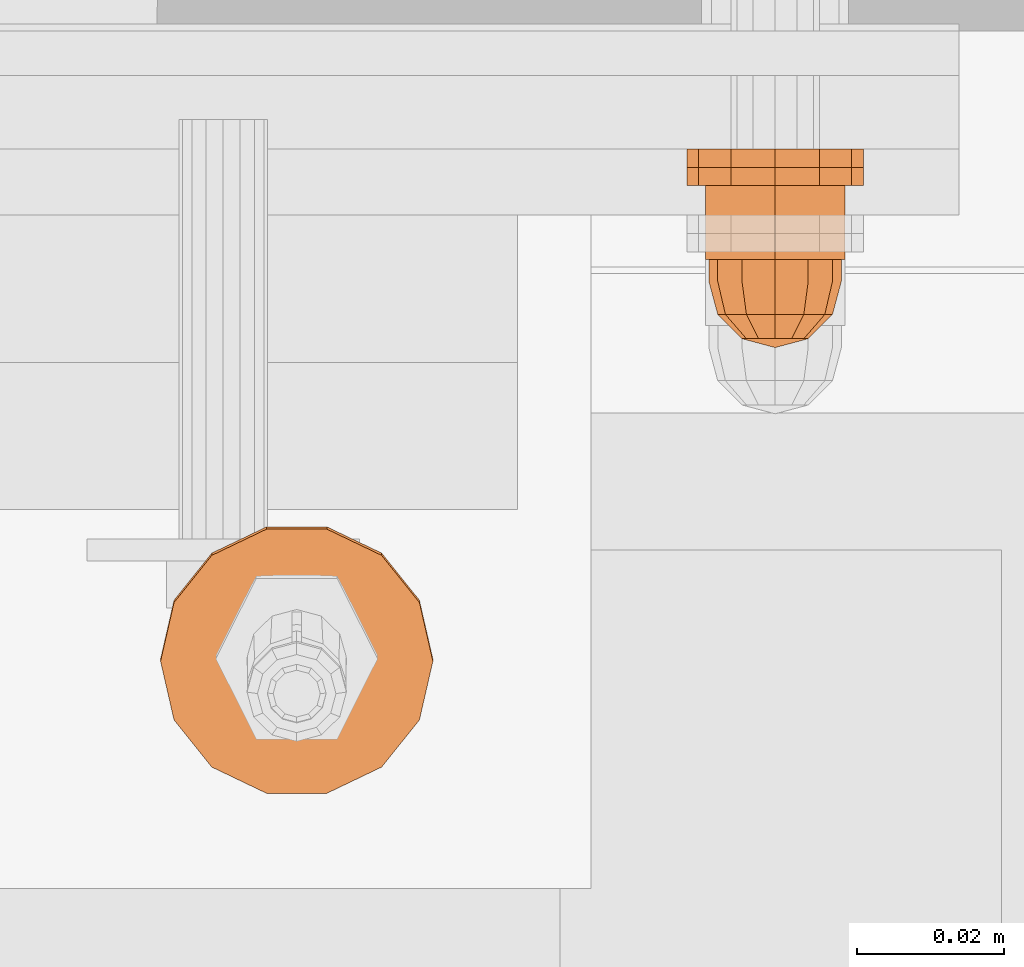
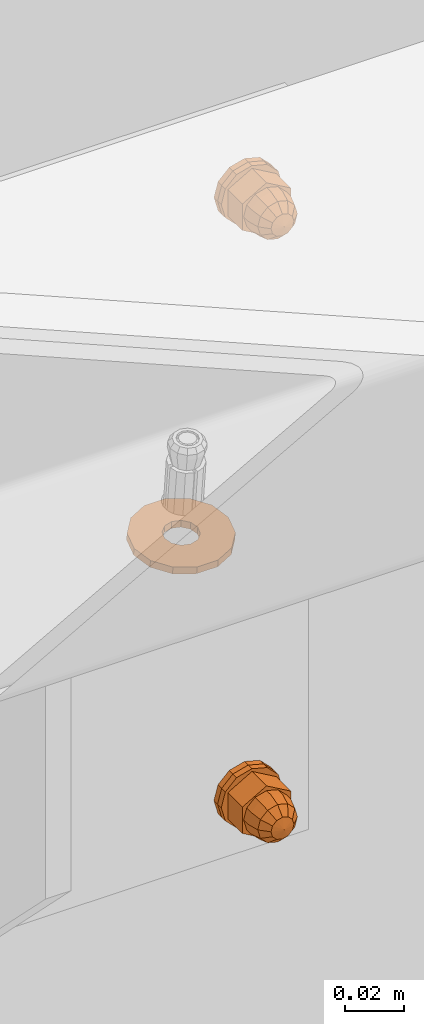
# One storey, part 139 of 162: 7 proxies.
"""IFC2X3 building model written with IfcOpenShell, lengths in millimetres."""

from ifc_helpers import new_model, entity, si_unit, converted_unit, origin_with_axes, place, context, project, spatial, faceted_brep, material, element, save


model = new_model("IFC2X3")

# Units and contexts
model_context = context("Model", 3, precision=1e-09, world=origin_with_axes())
ifc_project = project(units=[si_unit("LENGTHUNIT", "METRE", prefix="MILLI"), si_unit("AREAUNIT", "SQUARE_METRE"), si_unit("VOLUMEUNIT", "CUBIC_METRE"), converted_unit("PLANEANGLEUNIT", "DEGREE", entity("IfcPlaneAngleMeasure", 0.01745329), si_unit("PLANEANGLEUNIT", "RADIAN"), dimensions=[0, 0, 0, 0, 0, 0, 0])], contexts=[model_context])

# Site, building, storey
site_placement = place(None, origin_with_axes())
site = spatial("IfcSite", under=ifc_project, at=site_placement, Name="Hermannstra?e 1a, 60318 Frankfurt", CompositionType="ELEMENT")
building_placement = place(site_placement, origin_with_axes())
building = spatial("IfcBuilding", under=site, at=building_placement, Name="Struktur 1", CompositionType="ELEMENT")
storey_placement = place(building_placement, origin_with_axes())
storey = spatial("IfcBuildingStorey", under=building, at=storey_placement, Name="Default Storey", CompositionType="ELEMENT", Elevation=0.0)

# Proxies
ifc_material_1 = material(Name="A4")
proxy_1_placement = place(None, origin_with_axes())
element("IfcBuildingElementProxy", 1, at=proxy_1_placement, inside=storey, material=ifc_material_1, ObjectType="-", context=model_context, shape_type="Brep", body=[
    faceted_brep([(2934.309364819, 2714.609373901, 17466.999), (2934.309364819, 2704.609373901, 17466.999), (2933.505517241, 2704.609373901, 17469.999), (2933.505517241, 2714.609373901, 17469.999), (2931.309364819, 2704.609373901, 17472.195152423), (2931.309364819, 2714.609373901, 17472.195152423), (2933.505517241, 2714.609373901, 17463.999), (2933.505517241, 2704.609373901, 17463.999), (2937.789234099, 2714.609373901, 17461.525794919), (2928.309364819, 2714.609373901, 17456.052589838), (2918.829495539, 2714.609373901, 17461.525794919), (2918.829495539, 2714.609373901, 17472.472205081), (2928.309364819, 2714.609373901, 17477.945410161), (2937.789234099, 2714.609373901, 17472.472205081), (2931.309364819, 2714.609373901, 17461.802847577), (2928.309364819, 2714.609373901, 17472.999), (2925.309364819, 2714.609373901, 17472.195152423), (2923.113212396, 2714.609373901, 17469.999), (2922.309364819, 2714.609373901, 17466.999), (2923.113212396, 2714.609373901, 17463.999), (2925.309364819, 2714.609373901, 17461.802847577), (2928.309364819, 2714.609373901, 17460.999), (2928.309364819, 2704.609373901, 17456.052589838), (2937.789234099, 2704.609373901, 17461.525794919), (2937.789234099, 2704.609373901, 17472.472205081), (2928.309364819, 2704.609373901, 17477.945410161), (2918.829495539, 2704.609373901, 17472.472205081), (2918.829495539, 2704.609373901, 17461.525794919), (2931.309364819, 2704.609373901, 17461.802847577), (2928.309364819, 2704.609373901, 17460.999), (2925.309364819, 2704.609373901, 17461.802847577), (2923.113212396, 2704.609373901, 17463.999), (2922.309364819, 2704.609373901, 17466.999), (2923.113212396, 2704.609373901, 17469.999), (2925.309364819, 2704.609373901, 17472.195152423), (2928.309364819, 2704.609373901, 17472.999)], [[[0, 1, 2, 3]], [[3, 2, 4, 5]], [[1, 0, 6, 7]], [[8, 9, 10, 11, 12, 13], [14, 6, 0, 3, 5, 15, 16, 17, 18, 19, 20, 21]], [[22, 23, 24, 25, 26, 27], [1, 7, 28, 29, 30, 31, 32, 33, 34, 35, 4, 2]], [[7, 6, 14, 28]], [[24, 23, 8, 13]], [[5, 4, 35, 15]], [[13, 12, 25, 24]], [[28, 14, 21, 29]], [[23, 22, 9, 8]], [[15, 35, 34, 16]], [[12, 11, 26, 25]], [[29, 21, 20, 30]], [[22, 27, 10, 9]], [[16, 34, 33, 17]], [[27, 26, 11, 10]], [[30, 20, 19, 31]], [[17, 33, 32, 18]], [[31, 19, 18, 32]]]),
    faceted_brep([(2928.309364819, 2704.609373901, 17457.999), (2928.309364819, 2701.609373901, 17457.999), (2923.809364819, 2701.609373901, 17459.204771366), (2923.809364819, 2704.609373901, 17459.204771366), (2932.809364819, 2704.609373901, 17459.204771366), (2932.809364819, 2701.609373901, 17459.204771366), (2936.103593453, 2701.609373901, 17471.499), (2932.809364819, 2701.609373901, 17474.793228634), (2928.309364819, 2701.609373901, 17475.999), (2923.809364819, 2701.609373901, 17474.793228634), (2920.515136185, 2701.609373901, 17471.499), (2919.309364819, 2701.609373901, 17466.999), (2920.515136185, 2701.609373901, 17462.499), (2936.103593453, 2701.609373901, 17462.499), (2937.309364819, 2701.609373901, 17466.999), (2920.515136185, 2704.609373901, 17471.499), (2923.809364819, 2704.609373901, 17474.793228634), (2928.309364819, 2704.609373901, 17475.999), (2932.809364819, 2704.609373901, 17474.793228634), (2936.103593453, 2704.609373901, 17471.499), (2937.309364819, 2704.609373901, 17466.999), (2936.103593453, 2704.609373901, 17462.499), (2920.515136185, 2704.609373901, 17462.499), (2919.309364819, 2704.609373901, 17466.999)], [[[0, 1, 2, 3]], [[1, 0, 4, 5]], [[6, 7, 8, 9, 10, 11, 12, 2, 1, 5, 13, 14]], [[15, 16, 17, 18, 19, 20, 21, 4, 0, 3, 22, 23]], [[3, 2, 12, 22]], [[5, 4, 21, 13]], [[22, 12, 11, 23]], [[13, 21, 20, 14]], [[7, 18, 17, 8]], [[19, 6, 14, 20]], [[18, 7, 6, 19]], [[23, 11, 10, 15]], [[8, 17, 16, 9]], [[15, 10, 9, 16]]]),
    faceted_brep([(2936.103593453, 2701.609373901, 17462.499), (2935.059364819, 2697.109373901, 17463.101885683), (2932.206479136, 2697.109373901, 17460.249), (2932.809364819, 2701.609373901, 17459.204771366), (2920.515136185, 2701.609373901, 17471.499), (2923.809364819, 2701.609373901, 17474.793228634), (2928.309364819, 2701.609373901, 17475.999), (2932.809364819, 2701.609373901, 17474.793228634), (2936.103593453, 2701.609373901, 17471.499), (2937.309364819, 2701.609373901, 17466.999), (2928.309364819, 2701.609373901, 17457.999), (2923.809364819, 2701.609373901, 17459.204771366), (2920.515136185, 2701.609373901, 17462.499), (2919.309364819, 2701.609373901, 17466.999), (2928.309364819, 2697.109373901, 17459.204771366), (2936.103593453, 2697.109373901, 17466.999), (2932.809364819, 2693.815145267, 17466.999), (2932.206479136, 2693.815145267, 17464.749), (2924.412250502, 2697.109373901, 17460.249), (2930.559364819, 2693.815145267, 17463.101885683), (2935.059364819, 2697.109373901, 17470.896114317), (2932.206479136, 2693.815145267, 17469.249), (2928.309364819, 2693.815145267, 17462.499), (2928.309364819, 2692.609373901, 17466.999), (2932.206479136, 2697.109373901, 17473.749), (2930.559364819, 2693.815145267, 17470.896114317), (2928.309364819, 2697.109373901, 17474.793228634), (2921.559364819, 2697.109373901, 17463.101885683), (2926.059364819, 2693.815145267, 17463.101885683), (2928.309364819, 2693.815145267, 17471.499), (2924.412250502, 2697.109373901, 17473.749), (2926.059364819, 2693.815145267, 17470.896114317), (2920.515136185, 2697.109373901, 17466.999), (2924.412250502, 2693.815145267, 17464.749), (2921.559364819, 2697.109373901, 17470.896114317), (2924.412250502, 2693.815145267, 17469.249), (2923.809364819, 2693.815145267, 17466.999)], [[[0, 1, 2, 3]], [[4, 5, 6, 7, 8, 9, 0, 3, 10, 11, 12, 13]], [[3, 2, 14, 10]], [[15, 16, 17, 1]], [[1, 0, 9, 15]], [[10, 14, 18, 11]], [[1, 17, 19, 2]], [[16, 15, 20, 21]], [[2, 19, 22, 14]], [[23, 17, 16]], [[24, 25, 21, 20]], [[23, 16, 21]], [[24, 7, 6, 26]], [[20, 8, 7, 24]], [[15, 9, 8, 20]], [[11, 18, 27, 12]], [[14, 22, 28, 18]], [[23, 19, 17]], [[26, 29, 25, 24]], [[23, 21, 25]], [[23, 22, 19]], [[26, 6, 5, 30]], [[29, 26, 30, 31]], [[23, 25, 29]], [[12, 27, 32, 13]], [[18, 28, 33, 27]], [[23, 28, 22]], [[23, 29, 31]], [[23, 33, 28]], [[30, 5, 4, 34]], [[31, 30, 34, 35]], [[23, 31, 35]], [[13, 32, 34, 4]], [[27, 33, 36, 32]], [[23, 36, 33]], [[23, 35, 36]], [[35, 34, 32, 36]]]),
])
ifc_material_2 = material(Name="Kunststoff")
proxy_2_placement = place(None, origin_with_axes())
element("IfcBuildingElementProxy", 2, at=proxy_2_placement, inside=storey, material=ifc_material_2, ObjectType="-", context=model_context, shape_type="Brep", body=[
    faceted_brep([(2938.701669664, 2717.109373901, 17460.999), (2938.701669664, 2719.609373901, 17460.999), (2940.309364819, 2719.609373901, 17466.999), (2940.309364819, 2717.109373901, 17466.999), (2934.309364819, 2719.609373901, 17456.606695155), (2928.309364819, 2719.609373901, 17454.999), (2922.309364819, 2719.609373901, 17456.606695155), (2917.917059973, 2719.609373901, 17460.999), (2916.309364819, 2719.609373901, 17466.999), (2917.917059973, 2719.609373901, 17472.999), (2922.309364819, 2719.609373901, 17477.391304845), (2928.309364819, 2719.609373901, 17478.999), (2934.309364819, 2719.609373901, 17477.391304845), (2938.701669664, 2719.609373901, 17472.999), (2931.559364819, 2719.609373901, 17461.369834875), (2933.938529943, 2719.609373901, 17463.749), (2934.809364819, 2719.609373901, 17466.999), (2933.938529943, 2719.609373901, 17470.249), (2931.559364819, 2719.609373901, 17472.628165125), (2928.309364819, 2719.609373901, 17473.499), (2925.059364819, 2719.609373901, 17472.628165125), (2922.680199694, 2719.609373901, 17470.249), (2921.809364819, 2719.609373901, 17466.999), (2922.680199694, 2719.609373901, 17463.749), (2925.059364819, 2719.609373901, 17461.369834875), (2928.309364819, 2719.609373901, 17460.499), (2934.809364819, 2717.109373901, 17466.999), (2933.938529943, 2717.109373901, 17463.749), (2934.309364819, 2717.109373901, 17456.606695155), (2938.701669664, 2717.109373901, 17472.999), (2934.309364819, 2717.109373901, 17477.391304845), (2928.309364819, 2717.109373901, 17478.999), (2922.309364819, 2717.109373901, 17477.391304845), (2917.917059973, 2717.109373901, 17472.999), (2916.309364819, 2717.109373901, 17466.999), (2917.917059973, 2717.109373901, 17460.999), (2922.309364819, 2717.109373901, 17456.606695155), (2928.309364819, 2717.109373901, 17454.999), (2931.559364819, 2717.109373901, 17461.369834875), (2928.309364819, 2717.109373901, 17460.499), (2925.059364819, 2717.109373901, 17461.369834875), (2922.680199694, 2717.109373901, 17463.749), (2921.809364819, 2717.109373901, 17466.999), (2922.680199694, 2717.109373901, 17470.249), (2925.059364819, 2717.109373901, 17472.628165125), (2928.309364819, 2717.109373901, 17473.499), (2931.559364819, 2717.109373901, 17472.628165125), (2933.938529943, 2717.109373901, 17470.249)], [[[0, 1, 2, 3]], [[1, 4, 5, 6, 7, 8, 9, 10, 11, 12, 13, 2], [14, 15, 16, 17, 18, 19, 20, 21, 22, 23, 24, 25]], [[26, 16, 15, 27]], [[28, 0, 3, 29, 30, 31, 32, 33, 34, 35, 36, 37], [26, 27, 38, 39, 40, 41, 42, 43, 44, 45, 46, 47]], [[1, 0, 28, 4]], [[16, 26, 47, 17]], [[3, 2, 13, 29]], [[27, 15, 14, 38]], [[4, 28, 37, 5]], [[17, 47, 46, 18]], [[29, 13, 12, 30]], [[38, 14, 25, 39]], [[18, 46, 45, 19]], [[5, 37, 36, 6]], [[39, 25, 24, 40]], [[30, 12, 11, 31]], [[19, 45, 44, 20]], [[6, 36, 35, 7]], [[40, 24, 23, 41]], [[31, 11, 10, 32]], [[20, 44, 43, 21]], [[7, 35, 34, 8]], [[41, 23, 22, 42]], [[32, 10, 9, 33]], [[21, 43, 42, 22]], [[8, 34, 33, 9]]]),
])
proxy_3_placement = place(None, origin_with_axes())
element("IfcBuildingElementProxy", 3, at=proxy_3_placement, inside=storey, material=ifc_material_1, ObjectType="-", context=model_context, shape_type="Brep", body=[
    faceted_brep([(2917.917059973, 2714.609373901, 17460.999), (2917.917059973, 2717.109373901, 17460.999), (2922.309364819, 2717.109373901, 17456.606695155), (2922.309364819, 2714.609373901, 17456.606695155), (2928.309364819, 2714.609373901, 17454.999), (2934.309364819, 2714.609373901, 17456.606695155), (2938.701669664, 2714.609373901, 17460.999), (2940.309364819, 2714.609373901, 17466.999), (2938.701669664, 2714.609373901, 17472.999), (2934.309364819, 2714.609373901, 17477.391304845), (2928.309364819, 2714.609373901, 17478.999), (2922.309364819, 2714.609373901, 17477.391304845), (2917.917059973, 2714.609373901, 17472.999), (2916.309364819, 2714.609373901, 17466.999), (2931.559364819, 2714.609373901, 17461.369834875), (2928.309364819, 2714.609373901, 17460.499), (2925.059364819, 2714.609373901, 17461.369834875), (2922.680199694, 2714.609373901, 17463.749), (2921.809364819, 2714.609373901, 17466.999), (2922.680199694, 2714.609373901, 17470.249), (2925.059364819, 2714.609373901, 17472.628165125), (2928.309364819, 2714.609373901, 17473.499), (2931.559364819, 2714.609373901, 17472.628165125), (2933.938529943, 2714.609373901, 17470.249), (2934.809364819, 2714.609373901, 17466.999), (2933.938529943, 2714.609373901, 17463.749), (2916.309364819, 2717.109373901, 17466.999), (2917.917059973, 2717.109373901, 17472.999), (2922.309364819, 2717.109373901, 17477.391304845), (2928.309364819, 2717.109373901, 17478.999), (2934.309364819, 2717.109373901, 17477.391304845), (2938.701669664, 2717.109373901, 17472.999), (2940.309364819, 2717.109373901, 17466.999), (2938.701669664, 2717.109373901, 17460.999), (2934.309364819, 2717.109373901, 17456.606695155), (2928.309364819, 2717.109373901, 17454.999), (2921.809364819, 2717.109373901, 17466.999), (2922.680199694, 2717.109373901, 17463.749), (2925.059364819, 2717.109373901, 17461.369834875), (2928.309364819, 2717.109373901, 17460.499), (2931.559364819, 2717.109373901, 17461.369834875), (2933.938529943, 2717.109373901, 17463.749), (2934.809364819, 2717.109373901, 17466.999), (2933.938529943, 2717.109373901, 17470.249), (2931.559364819, 2717.109373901, 17472.628165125), (2928.309364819, 2717.109373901, 17473.499), (2925.059364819, 2717.109373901, 17472.628165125), (2922.680199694, 2717.109373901, 17470.249)], [[[0, 1, 2, 3]], [[3, 4, 5, 6, 7, 8, 9, 10, 11, 12, 13, 0], [14, 15, 16, 17, 18, 19, 20, 21, 22, 23, 24, 25]], [[1, 26, 27, 28, 29, 30, 31, 32, 33, 34, 35, 2], [36, 37, 38, 39, 40, 41, 42, 43, 44, 45, 46, 47]], [[37, 17, 16, 38]], [[1, 0, 13, 26]], [[17, 37, 36, 18]], [[38, 16, 15, 39]], [[3, 2, 35, 4]], [[26, 13, 12, 27]], [[18, 36, 47, 19]], [[39, 15, 14, 40]], [[4, 35, 34, 5]], [[27, 12, 11, 28]], [[19, 47, 46, 20]], [[40, 14, 25, 41]], [[5, 34, 33, 6]], [[24, 42, 41, 25]], [[28, 11, 10, 29]], [[20, 46, 45, 21]], [[23, 43, 42, 24]], [[6, 33, 32, 7]], [[44, 22, 21, 45]], [[43, 23, 22, 44]], [[29, 10, 9, 30]], [[7, 32, 31, 8]], [[30, 9, 8, 31]]]),
])
proxy_4_placement = place(None, origin_with_axes())
element("IfcBuildingElementProxy", 4, at=proxy_4_placement, inside=storey, material=ifc_material_2, ObjectType="-", context=model_context, shape_type="Brep", body=[
    faceted_brep([(2938.701669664, 2719.609373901, 17222.999), (2938.701669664, 2717.109373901, 17222.999), (2940.309364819, 2717.109373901, 17216.999), (2940.309364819, 2719.609373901, 17216.999), (2933.938529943, 2719.609373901, 17220.249), (2931.559364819, 2719.609373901, 17222.628165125), (2928.309364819, 2719.609373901, 17223.499), (2925.059364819, 2719.609373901, 17222.628165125), (2922.680199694, 2719.609373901, 17220.249), (2921.809364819, 2719.609373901, 17216.999), (2922.680199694, 2719.609373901, 17213.749), (2925.059364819, 2719.609373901, 17211.369834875), (2928.309364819, 2719.609373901, 17210.499), (2931.559364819, 2719.609373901, 17211.369834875), (2933.938529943, 2719.609373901, 17213.749), (2934.809364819, 2719.609373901, 17216.999), (2934.809364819, 2717.109373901, 17216.999), (2933.938529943, 2717.109373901, 17220.249), (2934.309364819, 2717.109373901, 17227.391304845), (2928.309364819, 2717.109373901, 17228.999), (2922.309364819, 2717.109373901, 17227.391304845), (2917.917059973, 2717.109373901, 17222.999), (2916.309364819, 2717.109373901, 17216.999), (2917.917059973, 2717.109373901, 17210.999), (2922.309364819, 2717.109373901, 17206.606695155), (2928.309364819, 2717.109373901, 17204.999), (2934.309364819, 2717.109373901, 17206.606695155), (2938.701669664, 2717.109373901, 17210.999), (2934.309364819, 2719.609373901, 17227.391304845), (2933.938529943, 2717.109373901, 17213.749), (2938.701669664, 2719.609373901, 17210.999), (2931.559364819, 2717.109373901, 17222.628165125), (2928.309364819, 2719.609373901, 17228.999), (2931.559364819, 2717.109373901, 17211.369834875), (2934.309364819, 2719.609373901, 17206.606695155), (2928.309364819, 2717.109373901, 17223.499), (2928.309364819, 2717.109373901, 17210.499), (2922.309364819, 2719.609373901, 17227.391304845), (2925.059364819, 2717.109373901, 17222.628165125), (2928.309364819, 2719.609373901, 17204.999), (2925.059364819, 2717.109373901, 17211.369834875), (2917.917059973, 2719.609373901, 17222.999), (2922.680199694, 2717.109373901, 17220.249), (2922.309364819, 2719.609373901, 17206.606695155), (2922.680199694, 2717.109373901, 17213.749), (2916.309364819, 2719.609373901, 17216.999), (2921.809364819, 2717.109373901, 17216.999), (2917.917059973, 2719.609373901, 17210.999)], [[[0, 1, 2, 3]], [[4, 5, 6, 7, 8, 9, 10, 11, 12, 13, 14, 15]], [[15, 16, 17, 4]], [[1, 18, 19, 20, 21, 22, 23, 24, 25, 26, 27, 2]], [[1, 0, 28, 18]], [[16, 15, 14, 29]], [[3, 2, 27, 30]], [[4, 17, 31, 5]], [[18, 28, 32, 19]], [[29, 14, 13, 33]], [[30, 27, 26, 34]], [[5, 31, 35, 6]], [[33, 13, 12, 36]], [[19, 32, 37, 20]], [[6, 35, 38, 7]], [[34, 26, 25, 39]], [[36, 12, 11, 40]], [[20, 37, 41, 21]], [[7, 38, 42, 8]], [[39, 25, 24, 43]], [[40, 11, 10, 44]], [[21, 41, 45, 22]], [[8, 42, 46, 9]], [[43, 24, 23, 47]], [[44, 10, 9, 46]], [[22, 45, 47, 23]]]),
])
proxy_5_placement = place(None, origin_with_axes())
element("IfcBuildingElementProxy", 5, at=proxy_5_placement, inside=storey, material=ifc_material_1, ObjectType="-", context=model_context, shape_type="Brep", body=[
    faceted_brep([(2917.917059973, 2717.109373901, 17222.999), (2917.917059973, 2714.609373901, 17222.999), (2922.309364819, 2714.609373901, 17227.391304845), (2922.309364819, 2717.109373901, 17227.391304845), (2916.309364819, 2714.609373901, 17216.999), (2917.917059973, 2714.609373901, 17210.999), (2922.309364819, 2714.609373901, 17206.606695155), (2928.309364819, 2714.609373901, 17204.999), (2934.309364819, 2714.609373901, 17206.606695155), (2938.701669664, 2714.609373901, 17210.999), (2940.309364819, 2714.609373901, 17216.999), (2938.701669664, 2714.609373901, 17222.999), (2934.309364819, 2714.609373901, 17227.391304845), (2928.309364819, 2714.609373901, 17228.999), (2928.309364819, 2714.609373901, 17223.499), (2931.559364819, 2714.609373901, 17222.628165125), (2933.938529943, 2714.609373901, 17220.249), (2934.809364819, 2714.609373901, 17216.999), (2933.938529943, 2714.609373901, 17213.749), (2931.559364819, 2714.609373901, 17211.369834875), (2928.309364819, 2714.609373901, 17210.499), (2925.059364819, 2714.609373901, 17211.369834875), (2922.680199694, 2714.609373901, 17213.749), (2921.809364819, 2714.609373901, 17216.999), (2922.680199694, 2714.609373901, 17220.249), (2925.059364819, 2714.609373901, 17222.628165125), (2922.680199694, 2717.109373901, 17220.249), (2921.809364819, 2717.109373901, 17216.999), (2922.680199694, 2717.109373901, 17213.749), (2925.059364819, 2717.109373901, 17211.369834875), (2928.309364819, 2717.109373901, 17210.499), (2931.559364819, 2717.109373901, 17211.369834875), (2933.938529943, 2717.109373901, 17213.749), (2934.809364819, 2717.109373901, 17216.999), (2933.938529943, 2717.109373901, 17220.249), (2931.559364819, 2717.109373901, 17222.628165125), (2928.309364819, 2717.109373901, 17223.499), (2925.059364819, 2717.109373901, 17222.628165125), (2916.309364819, 2717.109373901, 17216.999), (2928.309364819, 2717.109373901, 17228.999), (2917.917059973, 2717.109373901, 17210.999), (2934.309364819, 2717.109373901, 17227.391304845), (2922.309364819, 2717.109373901, 17206.606695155), (2938.701669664, 2717.109373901, 17222.999), (2928.309364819, 2717.109373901, 17204.999), (2940.309364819, 2717.109373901, 17216.999), (2934.309364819, 2717.109373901, 17206.606695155), (2938.701669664, 2717.109373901, 17210.999)], [[[0, 1, 2, 3]], [[2, 1, 4, 5, 6, 7, 8, 9, 10, 11, 12, 13], [14, 15, 16, 17, 18, 19, 20, 21, 22, 23, 24, 25]], [[26, 27, 28, 29, 30, 31, 32, 33, 34, 35, 36, 37]], [[24, 26, 37, 25]], [[1, 0, 38, 4]], [[26, 24, 23, 27]], [[25, 37, 36, 14]], [[3, 2, 13, 39]], [[4, 38, 40, 5]], [[27, 23, 22, 28]], [[14, 36, 35, 15]], [[39, 13, 12, 41]], [[5, 40, 42, 6]], [[28, 22, 21, 29]], [[15, 35, 34, 16]], [[41, 12, 11, 43]], [[33, 17, 16, 34]], [[6, 42, 44, 7]], [[29, 21, 20, 30]], [[32, 18, 17, 33]], [[43, 11, 10, 45]], [[19, 31, 30, 20]], [[18, 32, 31, 19]], [[7, 44, 46, 8]], [[45, 10, 9, 47]], [[8, 46, 47, 9]]]),
])
proxy_6_placement = place(None, origin_with_axes())
element("IfcBuildingElementProxy", 6, at=proxy_6_placement, inside=storey, material=ifc_material_1, ObjectType="-", context=model_context, shape_type="Brep", body=[
    faceted_brep([(2934.309364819, 2704.609373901, 17216.999), (2934.309364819, 2714.609373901, 17216.999), (2933.505517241, 2714.609373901, 17213.999), (2933.505517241, 2704.609373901, 17213.999), (2931.309364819, 2714.609373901, 17211.802847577), (2931.309364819, 2704.609373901, 17211.802847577), (2933.505517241, 2704.609373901, 17219.999), (2933.505517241, 2714.609373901, 17219.999), (2937.789234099, 2714.609373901, 17222.472205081), (2937.789234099, 2714.609373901, 17211.525794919), (2928.309364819, 2714.609373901, 17206.052589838), (2918.829495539, 2714.609373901, 17211.525794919), (2918.829495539, 2714.609373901, 17222.472205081), (2928.309364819, 2714.609373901, 17227.945410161), (2931.309364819, 2714.609373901, 17222.195152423), (2928.309364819, 2714.609373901, 17222.999), (2925.309364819, 2714.609373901, 17222.195152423), (2923.113212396, 2714.609373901, 17219.999), (2922.309364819, 2714.609373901, 17216.999), (2923.113212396, 2714.609373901, 17213.999), (2925.309364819, 2714.609373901, 17211.802847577), (2928.309364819, 2714.609373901, 17210.999), (2937.789234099, 2704.609373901, 17222.472205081), (2928.309364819, 2704.609373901, 17227.945410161), (2918.829495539, 2704.609373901, 17222.472205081), (2918.829495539, 2704.609373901, 17211.525794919), (2928.309364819, 2704.609373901, 17206.052589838), (2937.789234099, 2704.609373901, 17211.525794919), (2931.309364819, 2704.609373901, 17222.195152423), (2928.309364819, 2704.609373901, 17210.999), (2928.309364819, 2704.609373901, 17222.999), (2925.309364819, 2704.609373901, 17211.802847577), (2925.309364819, 2704.609373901, 17222.195152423), (2923.113212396, 2704.609373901, 17213.999), (2923.113212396, 2704.609373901, 17219.999), (2922.309364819, 2704.609373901, 17216.999)], [[[0, 1, 2, 3]], [[3, 2, 4, 5]], [[1, 0, 6, 7]], [[8, 9, 10, 11, 12, 13], [7, 14, 15, 16, 17, 18, 19, 20, 21, 4, 2, 1]], [[22, 23, 24, 25, 26, 27]], [[7, 6, 28, 14]], [[22, 27, 9, 8]], [[5, 4, 21, 29]], [[10, 9, 27, 26]], [[14, 28, 30, 15]], [[23, 22, 8, 13]], [[29, 21, 20, 31]], [[11, 10, 26, 25]], [[15, 30, 32, 16]], [[24, 23, 13, 12]], [[31, 20, 19, 33]], [[25, 24, 12, 11]], [[16, 32, 34, 17]], [[33, 19, 18, 35]], [[17, 34, 35, 18]]]),
    faceted_brep([(2928.309364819, 2701.609373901, 17225.999), (2928.309364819, 2704.609373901, 17225.999), (2923.809364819, 2704.609373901, 17224.793228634), (2923.809364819, 2701.609373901, 17224.793228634), (2932.809364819, 2701.609373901, 17224.793228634), (2932.809364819, 2704.609373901, 17224.793228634), (2932.809364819, 2701.609373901, 17209.204771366), (2936.103593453, 2701.609373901, 17212.499), (2937.309364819, 2701.609373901, 17216.999), (2936.103593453, 2701.609373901, 17221.499), (2920.515136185, 2701.609373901, 17221.499), (2919.309364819, 2701.609373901, 17216.999), (2920.515136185, 2701.609373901, 17212.499), (2923.809364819, 2701.609373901, 17209.204771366), (2928.309364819, 2701.609373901, 17207.999), (2923.809364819, 2704.609373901, 17209.204771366), (2920.515136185, 2704.609373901, 17212.499), (2919.309364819, 2704.609373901, 17216.999), (2920.515136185, 2704.609373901, 17221.499), (2936.103593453, 2704.609373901, 17221.499), (2937.309364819, 2704.609373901, 17216.999), (2936.103593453, 2704.609373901, 17212.499), (2932.809364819, 2704.609373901, 17209.204771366), (2928.309364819, 2704.609373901, 17207.999)], [[[0, 1, 2, 3]], [[1, 0, 4, 5]], [[6, 7, 8, 9, 4, 0, 3, 10, 11, 12, 13, 14]], [[15, 16, 17, 18, 2, 1, 5, 19, 20, 21, 22, 23]], [[3, 2, 18, 10]], [[5, 4, 9, 19]], [[10, 18, 17, 11]], [[19, 9, 8, 20]], [[22, 6, 14, 23]], [[7, 21, 20, 8]], [[6, 22, 21, 7]], [[11, 17, 16, 12]], [[23, 14, 13, 15]], [[12, 16, 15, 13]]]),
    faceted_brep([(2935.059364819, 2697.109373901, 17220.896114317), (2936.103593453, 2701.609373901, 17221.499), (2932.809364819, 2701.609373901, 17224.793228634), (2932.206479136, 2697.109373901, 17223.749), (2923.809364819, 2701.609373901, 17209.204771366), (2920.515136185, 2701.609373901, 17212.499), (2919.309364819, 2701.609373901, 17216.999), (2920.515136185, 2701.609373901, 17221.499), (2923.809364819, 2701.609373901, 17224.793228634), (2928.309364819, 2701.609373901, 17225.999), (2937.309364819, 2701.609373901, 17216.999), (2936.103593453, 2701.609373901, 17212.499), (2932.809364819, 2701.609373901, 17209.204771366), (2928.309364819, 2701.609373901, 17207.999), (2928.309364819, 2697.109373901, 17224.793228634), (2932.809364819, 2693.815145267, 17216.999), (2936.103593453, 2697.109373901, 17216.999), (2932.206479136, 2693.815145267, 17219.249), (2924.412250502, 2697.109373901, 17223.749), (2930.559364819, 2693.815145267, 17220.896114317), (2932.206479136, 2693.815145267, 17214.749), (2935.059364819, 2697.109373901, 17213.101885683), (2928.309364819, 2693.815145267, 17221.499), (2928.309364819, 2692.609373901, 17216.999), (2930.559364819, 2693.815145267, 17213.101885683), (2932.206479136, 2697.109373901, 17210.249), (2928.309364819, 2697.109373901, 17209.204771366), (2921.559364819, 2697.109373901, 17220.896114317), (2926.059364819, 2693.815145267, 17220.896114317), (2928.309364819, 2693.815145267, 17212.499), (2924.412250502, 2697.109373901, 17210.249), (2926.059364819, 2693.815145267, 17213.101885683), (2920.515136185, 2697.109373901, 17216.999), (2924.412250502, 2693.815145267, 17219.249), (2921.559364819, 2697.109373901, 17213.101885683), (2924.412250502, 2693.815145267, 17214.749), (2923.809364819, 2693.815145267, 17216.999)], [[[0, 1, 2, 3]], [[4, 5, 6, 7, 8, 9, 2, 1, 10, 11, 12, 13]], [[3, 2, 9, 14]], [[15, 16, 0, 17]], [[1, 0, 16, 10]], [[14, 9, 8, 18]], [[17, 0, 3, 19]], [[16, 15, 20, 21]], [[19, 3, 14, 22]], [[17, 23, 15]], [[24, 25, 21, 20]], [[15, 23, 20]], [[12, 25, 26, 13]], [[11, 21, 25, 12]], [[10, 16, 21, 11]], [[18, 8, 7, 27]], [[22, 14, 18, 28]], [[19, 23, 17]], [[29, 26, 25, 24]], [[20, 23, 24]], [[22, 23, 19]], [[13, 26, 30, 4]], [[26, 29, 31, 30]], [[24, 23, 29]], [[27, 7, 6, 32]], [[28, 18, 27, 33]], [[28, 23, 22]], [[29, 23, 31]], [[33, 23, 28]], [[4, 30, 34, 5]], [[30, 31, 35, 34]], [[31, 23, 35]], [[32, 6, 5, 34]], [[33, 27, 32, 36]], [[36, 23, 33]], [[35, 23, 36]], [[34, 35, 36, 32]]]),
])
ifc_material_3 = material(Name="S235JR")
proxy_7_placement = place(None, origin_with_axes())
element("IfcBuildingElementProxy", 7, at=proxy_7_placement, inside=storey, material=ifc_material_3, ObjectType="-", context=model_context, shape_type="Brep", body=[
    faceted_brep([(2851.774803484, 2635.921778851, 17384.270652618), (2851.774803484, 2635.608193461, 17387.254218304), (2846.641440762, 2642.009963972, 17387.927071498), (2846.641440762, 2642.323549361, 17384.943505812), (2867.426002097, 2632.369064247, 17383.897247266), (2859.19272754, 2632.369064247, 17383.897247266), (2844.809364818, 2650.306426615, 17385.782540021), (2846.641440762, 2658.289303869, 17386.62157423), (2851.774803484, 2664.69107438, 17387.294427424), (2859.19272754, 2668.243788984, 17387.667832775), (2867.426002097, 2668.243788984, 17387.667832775), (2874.843926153, 2664.69107438, 17387.294427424), (2879.977288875, 2658.289303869, 17386.62157423), (2881.809364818, 2650.306426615, 17385.782540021), (2879.977288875, 2642.323549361, 17384.943505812), (2874.843926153, 2635.921778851, 17384.270652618), (2860.059364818, 2644.708098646, 17385.194132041), (2863.309364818, 2643.842034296, 17385.10310501), (2866.559364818, 2644.708098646, 17385.194132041), (2868.938529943, 2647.074230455, 17385.442822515), (2869.809364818, 2650.306426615, 17385.782540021), (2868.938529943, 2653.538622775, 17386.122257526), (2866.559364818, 2655.904754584, 17386.370948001), (2863.309364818, 2656.770818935, 17386.461975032), (2860.059364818, 2655.904754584, 17386.370948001), (2857.680199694, 2653.538622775, 17386.122257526), (2856.809364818, 2650.306426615, 17385.782540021), (2857.680199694, 2647.074230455, 17385.442822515), (2846.641440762, 2657.97571848, 17389.605139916), (2844.809364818, 2649.992841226, 17388.766105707), (2859.19272754, 2632.055478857, 17386.880812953), (2867.426002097, 2632.055478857, 17386.880812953), (2874.843926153, 2635.608193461, 17387.254218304), (2879.977288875, 2642.009963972, 17387.927071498), (2881.809364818, 2649.992841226, 17388.766105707), (2879.977288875, 2657.97571848, 17389.605139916), (2874.843926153, 2664.37748899, 17390.27799311), (2867.426002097, 2667.930203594, 17390.651398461), (2859.19272754, 2667.930203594, 17390.651398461), (2851.774803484, 2664.37748899, 17390.27799311), (2856.809364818, 2649.992841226, 17388.766105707), (2857.680199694, 2653.225037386, 17389.105823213), (2860.059364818, 2655.591169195, 17389.354513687), (2863.309364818, 2656.457233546, 17389.445540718), (2866.559364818, 2655.591169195, 17389.354513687), (2868.938529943, 2653.225037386, 17389.105823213), (2869.809364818, 2649.992841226, 17388.766105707), (2868.938529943, 2646.760645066, 17388.426388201), (2866.559364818, 2644.394513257, 17388.177697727), (2863.309364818, 2643.528448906, 17388.086670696), (2860.059364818, 2644.394513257, 17388.177697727), (2857.680199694, 2646.760645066, 17388.426388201)], [[[0, 1, 2, 3]], [[4, 5, 0, 3, 6, 7, 8, 9, 10, 11, 12, 13, 14, 15], [16, 17, 18, 19, 20, 21, 22, 23, 24, 25, 26, 27]], [[28, 29, 2, 1, 30, 31, 32, 33, 34, 35, 36, 37, 38, 39], [40, 41, 42, 43, 44, 45, 46, 47, 48, 49, 50, 51]], [[1, 0, 5, 30]], [[27, 51, 50, 16]], [[51, 27, 26, 40]], [[3, 2, 29, 6]], [[30, 5, 4, 31]], [[16, 50, 49, 17]], [[40, 26, 25, 41]], [[6, 29, 28, 7]], [[31, 4, 15, 32]], [[17, 49, 48, 18]], [[41, 25, 24, 42]], [[7, 28, 39, 8]], [[32, 15, 14, 33]], [[18, 48, 47, 19]], [[42, 24, 23, 43]], [[8, 39, 38, 9]], [[33, 14, 13, 34]], [[19, 47, 46, 20]], [[22, 44, 43, 23]], [[9, 38, 37, 10]], [[45, 21, 20, 46]], [[44, 22, 21, 45]], [[34, 13, 12, 35]], [[10, 37, 36, 11]], [[35, 12, 11, 36]]]),
])

save(model, "model.ifc")
